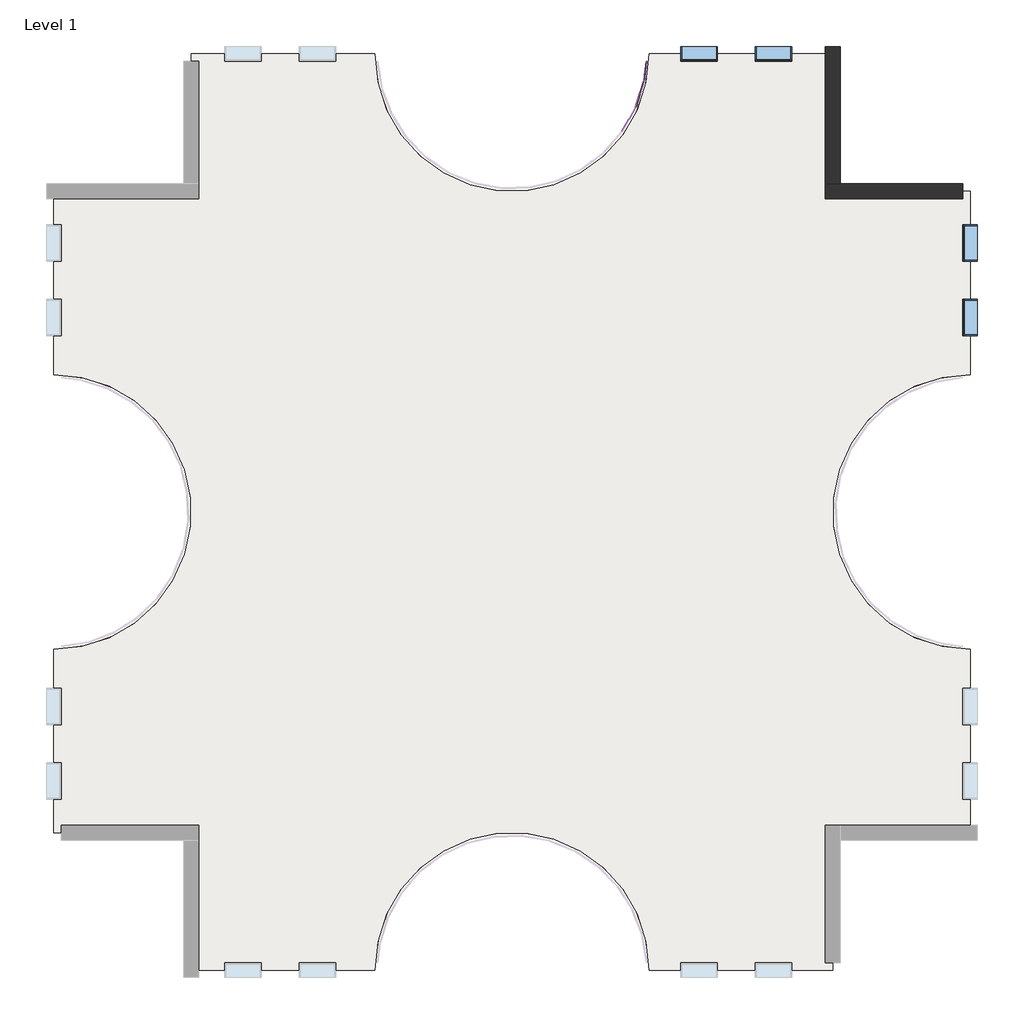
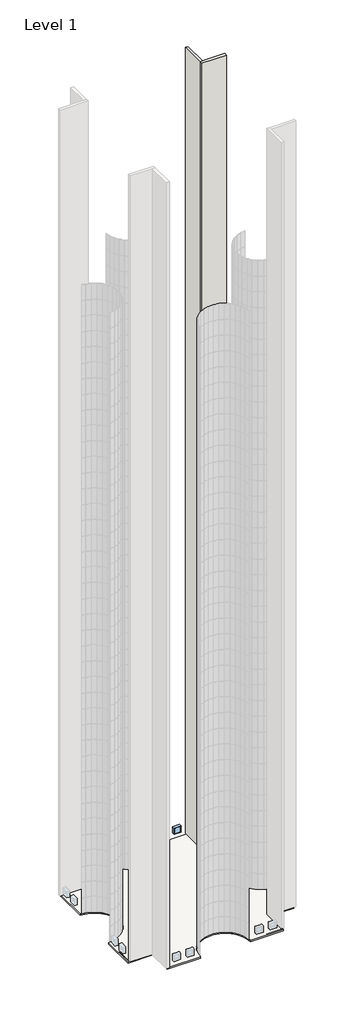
# One storey, part 19 of 19: 108 plates, 4 windows, 2 slabs, 2 walls.
"""IFC4 building model written with IfcOpenShell, lengths in millimetres."""

from ifc_helpers import new_model, si_unit, point, frame, frame_2d, origin, place, context, project, spatial, polyline, circle_curve, trimmed, segment, composite_curve, outline, extrude, faceted_brep, transform, mapped, element, save
from components import system_panel_glazed_d77d1ebf, system_panel_glazed_769dbdec, window_d0035ecf, window_d434eb62

model = new_model("IFC4")

# Units and contexts
model_context = context("Model", 3, world=origin())
ifc_project = project(units=[si_unit("LENGTHUNIT", "METRE", prefix="MILLI")], contexts=[model_context])

# Site, building, storey
site = spatial("IfcSite", under=ifc_project)
building = spatial("IfcBuilding", under=site)
storey = spatial("IfcBuildingStorey", under=building, Name="Level 1", Elevation=0.0)

# Plates
placement = place(None, origin())
system_panel_glazed_shape = system_panel_glazed_d77d1ebf(model_context)
element("IfcPlate", 1, ObjectType="System Panel : Glazed", at=placement, inside=storey, context=model_context, shape_type="MappedRepresentation", body=[
    mapped(system_panel_glazed_shape, transform((7737.9054503, 7722.5420694, 0.0), x_axis=(0.30039246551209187, 0.953815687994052, 0.0), y_axis=(-0.953815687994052, 0.30039246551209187, 0.0), z_axis=(0.0, 0.0, 1.0))),
])
element("IfcPlate", 2, ObjectType="System Panel : Glazed", at=placement, inside=storey, context=model_context, shape_type="MappedRepresentation", body=[
    mapped(system_panel_glazed_shape, transform((7737.9054503, 7722.5420694, 3048.0), x_axis=(0.30039246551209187, 0.953815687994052, 0.0), y_axis=(-0.953815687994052, 0.30039246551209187, 0.0), z_axis=(0.0, 0.0, 1.0))),
])
element("IfcPlate", 3, ObjectType="System Panel : Glazed", at=placement, inside=storey, context=model_context, shape_type="MappedRepresentation", body=[
    mapped(system_panel_glazed_shape, transform((7737.9054503, 7722.5420694, 6096.0), x_axis=(0.30039246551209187, 0.953815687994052, 0.0), y_axis=(-0.953815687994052, 0.30039246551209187, 0.0), z_axis=(0.0, 0.0, 1.0))),
])
element("IfcPlate", 4, ObjectType="System Panel : Glazed", at=placement, inside=storey, context=model_context, shape_type="MappedRepresentation", body=[
    mapped(system_panel_glazed_shape, transform((7737.9054503, 7722.5420694, 9144.0), x_axis=(0.30039246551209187, 0.953815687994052, 0.0), y_axis=(-0.953815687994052, 0.30039246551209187, 0.0), z_axis=(0.0, 0.0, 1.0))),
])
element("IfcPlate", 5, ObjectType="System Panel : Glazed", at=placement, inside=storey, context=model_context, shape_type="MappedRepresentation", body=[
    mapped(system_panel_glazed_shape, transform((7737.9054503, 7722.5420694, 12192.0), x_axis=(0.30039246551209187, 0.953815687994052, 0.0), y_axis=(-0.953815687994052, 0.30039246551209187, 0.0), z_axis=(0.0, 0.0, 1.0))),
])
element("IfcPlate", 6, ObjectType="System Panel : Glazed", at=placement, inside=storey, context=model_context, shape_type="MappedRepresentation", body=[
    mapped(system_panel_glazed_shape, transform((7737.9054503, 7722.5420694, 15240.0), x_axis=(0.30039246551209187, 0.953815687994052, 0.0), y_axis=(-0.953815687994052, 0.30039246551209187, 0.0), z_axis=(0.0, 0.0, 1.0))),
])
element("IfcPlate", 7, ObjectType="System Panel : Glazed", at=placement, inside=storey, context=model_context, shape_type="MappedRepresentation", body=[
    mapped(system_panel_glazed_shape, transform((7737.9054503, 7722.5420694, 18288.0), x_axis=(0.3003924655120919, 0.953815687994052, 0.0), y_axis=(-0.953815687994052, 0.3003924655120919, 0.0), z_axis=(0.0, 0.0, 1.0))),
])
element("IfcPlate", 8, ObjectType="System Panel : Glazed", at=placement, inside=storey, context=model_context, shape_type="MappedRepresentation", body=[
    mapped(system_panel_glazed_shape, transform((7737.9054503, 7722.5420694, 21336.0), x_axis=(0.30039246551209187, 0.953815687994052, 0.0), y_axis=(-0.953815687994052, 0.30039246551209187, 0.0), z_axis=(0.0, 0.0, 1.0))),
])
element("IfcPlate", 9, ObjectType="System Panel : Glazed", at=placement, inside=storey, context=model_context, shape_type="MappedRepresentation", body=[
    mapped(system_panel_glazed_shape, transform((7737.9054503, 7722.5420694, 24384.0), x_axis=(0.30039246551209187, 0.953815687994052, 0.0), y_axis=(-0.953815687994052, 0.30039246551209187, 0.0), z_axis=(0.0, 0.0, 1.0))),
])
element("IfcPlate", 10, ObjectType="System Panel : Glazed", at=placement, inside=storey, context=model_context, shape_type="MappedRepresentation", body=[
    mapped(system_panel_glazed_shape, transform((7737.9054503, 7722.5420694, 27432.0), x_axis=(0.30039246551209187, 0.953815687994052, 0.0), y_axis=(-0.953815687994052, 0.30039246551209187, 0.0), z_axis=(0.0, 0.0, 1.0))),
])
element("IfcPlate", 11, ObjectType="System Panel : Glazed", at=placement, inside=storey, context=model_context, shape_type="MappedRepresentation", body=[
    mapped(system_panel_glazed_shape, transform((7737.9054503, 7722.5420694, 30480.0), x_axis=(0.30039246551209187, 0.953815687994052, 0.0), y_axis=(-0.953815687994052, 0.30039246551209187, 0.0), z_axis=(0.0, 0.0, 1.0))),
])
element("IfcPlate", 12, ObjectType="System Panel : Glazed", at=placement, inside=storey, context=model_context, shape_type="MappedRepresentation", body=[
    mapped(system_panel_glazed_shape, transform((7737.9054503, 7722.5420694, 33528.0), x_axis=(0.30039246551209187, 0.953815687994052, 0.0), y_axis=(-0.953815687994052, 0.30039246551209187, 0.0), z_axis=(0.0, 0.0, 1.0))),
])
element("IfcPlate", 13, ObjectType="System Panel : Glazed", at=placement, inside=storey, context=model_context, shape_type="MappedRepresentation", body=[
    mapped(system_panel_glazed_shape, transform((7376.9584203, 6887.6700201, 36576.0), x_axis=(0.4890804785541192, 0.8722386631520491, 0.0), y_axis=(-0.8722386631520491, 0.4890804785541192, 0.0), z_axis=(0.0, 0.0, 1.0))),
])
element("IfcPlate", 14, ObjectType="System Panel : Glazed", at=placement, inside=storey, context=model_context, shape_type="MappedRepresentation", body=[
    mapped(system_panel_glazed_shape, transform((7737.9054503, 7722.5420694, 36576.0), x_axis=(0.30039246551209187, 0.953815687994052, 0.0), y_axis=(-0.953815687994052, 0.30039246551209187, 0.0), z_axis=(0.0, 0.0, 1.0))),
])
element("IfcPlate", 15, ObjectType="System Panel : Glazed", at=placement, inside=storey, context=model_context, shape_type="MappedRepresentation", body=[
    mapped(system_panel_glazed_shape, transform((7376.9584203, 6887.6700201, 39624.0), x_axis=(0.4890804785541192, 0.8722386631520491, 0.0), y_axis=(-0.8722386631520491, 0.4890804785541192, 0.0), z_axis=(0.0, 0.0, 1.0))),
])
element("IfcPlate", 16, ObjectType="System Panel : Glazed", at=placement, inside=storey, context=model_context, shape_type="MappedRepresentation", body=[
    mapped(system_panel_glazed_shape, transform((7737.9054503, 7722.5420694, 39624.0), x_axis=(0.30039246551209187, 0.953815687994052, 0.0), y_axis=(-0.953815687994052, 0.30039246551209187, 0.0), z_axis=(0.0, 0.0, 1.0))),
])
element("IfcPlate", 17, ObjectType="System Panel : Glazed", at=placement, inside=storey, context=model_context, shape_type="MappedRepresentation", body=[
    mapped(system_panel_glazed_shape, transform((7376.9584203, 6887.6700201, 42672.0), x_axis=(0.4890804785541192, 0.8722386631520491, 0.0), y_axis=(-0.8722386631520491, 0.4890804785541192, 0.0), z_axis=(0.0, 0.0, 1.0))),
])
element("IfcPlate", 18, ObjectType="System Panel : Glazed", at=placement, inside=storey, context=model_context, shape_type="MappedRepresentation", body=[
    mapped(system_panel_glazed_shape, transform((7737.9054503, 7722.5420694, 42672.0), x_axis=(0.30039246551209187, 0.953815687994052, 0.0), y_axis=(-0.953815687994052, 0.30039246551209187, 0.0), z_axis=(0.0, 0.0, 1.0))),
])
element("IfcPlate", 19, ObjectType="System Panel : Glazed", at=placement, inside=storey, context=model_context, shape_type="MappedRepresentation", body=[
    mapped(system_panel_glazed_shape, transform((7376.9584203, 6887.6700201, 45720.0), x_axis=(0.4890804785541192, 0.8722386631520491, 0.0), y_axis=(-0.8722386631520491, 0.4890804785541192, 0.0), z_axis=(0.0, 0.0, 1.0))),
])
element("IfcPlate", 20, ObjectType="System Panel : Glazed", at=placement, inside=storey, context=model_context, shape_type="MappedRepresentation", body=[
    mapped(system_panel_glazed_shape, transform((7737.9054503, 7722.5420694, 45720.0), x_axis=(0.30039246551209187, 0.953815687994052, 0.0), y_axis=(-0.953815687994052, 0.30039246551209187, 0.0), z_axis=(0.0, 0.0, 1.0))),
])
element("IfcPlate", 21, ObjectType="System Panel : Glazed", at=placement, inside=storey, context=model_context, shape_type="MappedRepresentation", body=[
    mapped(system_panel_glazed_shape, transform((7376.9584203, 6887.6700201, 48768.0), x_axis=(0.4890804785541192, 0.8722386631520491, 0.0), y_axis=(-0.8722386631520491, 0.4890804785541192, 0.0), z_axis=(0.0, 0.0, 1.0))),
])
element("IfcPlate", 22, ObjectType="System Panel : Glazed", at=placement, inside=storey, context=model_context, shape_type="MappedRepresentation", body=[
    mapped(system_panel_glazed_shape, transform((7737.9054503, 7722.5420694, 48768.0), x_axis=(0.30039246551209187, 0.953815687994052, 0.0), y_axis=(-0.953815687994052, 0.30039246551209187, 0.0), z_axis=(0.0, 0.0, 1.0))),
])
element("IfcPlate", 23, ObjectType="System Panel : Glazed", at=placement, inside=storey, context=model_context, shape_type="MappedRepresentation", body=[
    mapped(system_panel_glazed_shape, transform((7376.9584203, 6887.6700201, 51816.0), x_axis=(0.4890804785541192, 0.8722386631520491, 0.0), y_axis=(-0.8722386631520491, 0.4890804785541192, 0.0), z_axis=(0.0, 0.0, 1.0))),
])
element("IfcPlate", 24, ObjectType="System Panel : Glazed", at=placement, inside=storey, context=model_context, shape_type="MappedRepresentation", body=[
    mapped(system_panel_glazed_shape, transform((7737.9054503, 7722.5420694, 51816.0), x_axis=(0.30039246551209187, 0.953815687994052, 0.0), y_axis=(-0.953815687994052, 0.30039246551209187, 0.0), z_axis=(0.0, 0.0, 1.0))),
])
element("IfcPlate", 25, ObjectType="System Panel : Glazed", at=placement, inside=storey, context=model_context, shape_type="MappedRepresentation", body=[
    mapped(system_panel_glazed_shape, transform((7376.9584203, 6887.6700201, 54864.0), x_axis=(0.4890804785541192, 0.8722386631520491, 0.0), y_axis=(-0.8722386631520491, 0.4890804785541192, 0.0), z_axis=(0.0, 0.0, 1.0))),
])
element("IfcPlate", 26, ObjectType="System Panel : Glazed", at=placement, inside=storey, context=model_context, shape_type="MappedRepresentation", body=[
    mapped(system_panel_glazed_shape, transform((7737.9054503, 7722.5420694, 54864.0), x_axis=(0.30039246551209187, 0.953815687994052, 0.0), y_axis=(-0.953815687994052, 0.30039246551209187, 0.0), z_axis=(0.0, 0.0, 1.0))),
])
element("IfcPlate", 27, ObjectType="System Panel : Glazed", at=placement, inside=storey, context=model_context, shape_type="MappedRepresentation", body=[
    mapped(system_panel_glazed_shape, transform((7376.9584203, 6887.6700201, 57912.0), x_axis=(0.4890804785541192, 0.8722386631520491, 0.0), y_axis=(-0.8722386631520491, 0.4890804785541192, 0.0), z_axis=(0.0, 0.0, 1.0))),
])
element("IfcPlate", 28, ObjectType="System Panel : Glazed", at=placement, inside=storey, context=model_context, shape_type="MappedRepresentation", body=[
    mapped(system_panel_glazed_shape, transform((7737.9054503, 7722.5420694, 57912.0), x_axis=(0.30039246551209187, 0.953815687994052, 0.0), y_axis=(-0.953815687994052, 0.30039246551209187, 0.0), z_axis=(0.0, 0.0, 1.0))),
])
element("IfcPlate", 29, ObjectType="System Panel : Glazed", at=placement, inside=storey, context=model_context, shape_type="MappedRepresentation", body=[
    mapped(system_panel_glazed_shape, transform((7376.9584203, 6887.6700201, 60960.0), x_axis=(0.4890804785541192, 0.8722386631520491, 0.0), y_axis=(-0.8722386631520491, 0.4890804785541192, 0.0), z_axis=(0.0, 0.0, 1.0))),
])
element("IfcPlate", 30, ObjectType="System Panel : Glazed", at=placement, inside=storey, context=model_context, shape_type="MappedRepresentation", body=[
    mapped(system_panel_glazed_shape, transform((7737.9054503, 7722.5420694, 60960.0), x_axis=(0.30039246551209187, 0.953815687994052, 0.0), y_axis=(-0.953815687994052, 0.30039246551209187, 0.0), z_axis=(0.0, 0.0, 1.0))),
])
element("IfcPlate", 31, ObjectType="System Panel : Glazed", at=placement, inside=storey, context=model_context, shape_type="MappedRepresentation", body=[
    mapped(system_panel_glazed_shape, transform((7376.9584203, 6887.6700201, 64008.0), x_axis=(0.4890804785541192, 0.8722386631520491, 0.0), y_axis=(-0.8722386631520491, 0.4890804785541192, 0.0), z_axis=(0.0, 0.0, 1.0))),
])
element("IfcPlate", 32, ObjectType="System Panel : Glazed", at=placement, inside=storey, context=model_context, shape_type="MappedRepresentation", body=[
    mapped(system_panel_glazed_shape, transform((7737.9054503, 7722.5420694, 64008.0), x_axis=(0.30039246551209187, 0.953815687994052, 0.0), y_axis=(-0.953815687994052, 0.30039246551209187, 0.0), z_axis=(0.0, 0.0, 1.0))),
])
element("IfcPlate", 33, ObjectType="System Panel : Glazed", at=placement, inside=storey, context=model_context, shape_type="MappedRepresentation", body=[
    mapped(system_panel_glazed_shape, transform((7376.9584203, 6887.6700201, 67056.0), x_axis=(0.4890804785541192, 0.8722386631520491, 0.0), y_axis=(-0.8722386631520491, 0.4890804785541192, 0.0), z_axis=(0.0, 0.0, 1.0))),
])
element("IfcPlate", 34, ObjectType="System Panel : Glazed", at=placement, inside=storey, context=model_context, shape_type="MappedRepresentation", body=[
    mapped(system_panel_glazed_shape, transform((7737.9054503, 7722.5420694, 67056.0), x_axis=(0.30039246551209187, 0.953815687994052, 0.0), y_axis=(-0.953815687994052, 0.30039246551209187, 0.0), z_axis=(0.0, 0.0, 1.0))),
])
element("IfcPlate", 35, ObjectType="System Panel : Glazed", at=placement, inside=storey, context=model_context, shape_type="MappedRepresentation", body=[
    mapped(system_panel_glazed_shape, transform((7376.9584203, 6887.6700201, 70104.0), x_axis=(0.4890804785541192, 0.8722386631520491, 0.0), y_axis=(-0.8722386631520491, 0.4890804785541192, 0.0), z_axis=(0.0, 0.0, 1.0))),
])
element("IfcPlate", 36, ObjectType="System Panel : Glazed", at=placement, inside=storey, context=model_context, shape_type="MappedRepresentation", body=[
    mapped(system_panel_glazed_shape, transform((7737.9054503, 7722.5420694, 70104.0), x_axis=(0.30039246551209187, 0.953815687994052, 0.0), y_axis=(-0.953815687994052, 0.30039246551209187, 0.0), z_axis=(0.0, 0.0, 1.0))),
])
element("IfcPlate", 37, ObjectType="System Panel : Glazed", at=placement, inside=storey, context=model_context, shape_type="MappedRepresentation", body=[
    mapped(system_panel_glazed_shape, transform((7376.9584203, 6887.6700201, 73152.0), x_axis=(0.4890804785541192, 0.8722386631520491, 0.0), y_axis=(-0.8722386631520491, 0.4890804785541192, 0.0), z_axis=(0.0, 0.0, 1.0))),
])
element("IfcPlate", 38, ObjectType="System Panel : Glazed", at=placement, inside=storey, context=model_context, shape_type="MappedRepresentation", body=[
    mapped(system_panel_glazed_shape, transform((7737.9054503, 7722.5420694, 73152.0), x_axis=(0.30039246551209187, 0.953815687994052, 0.0), y_axis=(-0.953815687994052, 0.30039246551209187, 0.0), z_axis=(0.0, 0.0, 1.0))),
])
element("IfcPlate", 39, ObjectType="System Panel : Glazed", at=placement, inside=storey, context=model_context, shape_type="MappedRepresentation", body=[
    mapped(system_panel_glazed_shape, transform((7376.9584203, 6887.6700201, 76200.0), x_axis=(0.4890804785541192, 0.8722386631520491, 0.0), y_axis=(-0.8722386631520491, 0.4890804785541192, 0.0), z_axis=(0.0, 0.0, 1.0))),
])
element("IfcPlate", 40, ObjectType="System Panel : Glazed", at=placement, inside=storey, context=model_context, shape_type="MappedRepresentation", body=[
    mapped(system_panel_glazed_shape, transform((7737.9054503, 7722.5420694, 76200.0), x_axis=(0.30039246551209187, 0.953815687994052, 0.0), y_axis=(-0.953815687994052, 0.30039246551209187, 0.0), z_axis=(0.0, 0.0, 1.0))),
])
element("IfcPlate", 41, ObjectType="System Panel : Glazed", at=placement, inside=storey, context=model_context, shape_type="MappedRepresentation", body=[
    mapped(system_panel_glazed_shape, transform((7376.9584203, 6887.6700201, 79248.0), x_axis=(0.4890804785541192, 0.8722386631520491, 0.0), y_axis=(-0.8722386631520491, 0.4890804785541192, 0.0), z_axis=(0.0, 0.0, 1.0))),
])
element("IfcPlate", 42, ObjectType="System Panel : Glazed", at=placement, inside=storey, context=model_context, shape_type="MappedRepresentation", body=[
    mapped(system_panel_glazed_shape, transform((7737.9054503, 7722.5420694, 79248.0), x_axis=(0.30039246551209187, 0.953815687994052, 0.0), y_axis=(-0.953815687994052, 0.30039246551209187, 0.0), z_axis=(0.0, 0.0, 1.0))),
])
element("IfcPlate", 43, ObjectType="System Panel : Glazed", at=placement, inside=storey, context=model_context, shape_type="MappedRepresentation", body=[
    mapped(system_panel_glazed_shape, transform((7376.9584203, 6887.6700201, 82296.0), x_axis=(0.4890804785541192, 0.8722386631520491, 0.0), y_axis=(-0.8722386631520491, 0.4890804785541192, 0.0), z_axis=(0.0, 0.0, 1.0))),
])
element("IfcPlate", 44, ObjectType="System Panel : Glazed", at=placement, inside=storey, context=model_context, shape_type="MappedRepresentation", body=[
    mapped(system_panel_glazed_shape, transform((7737.9054503, 7722.5420694, 82296.0), x_axis=(0.30039246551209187, 0.953815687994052, 0.0), y_axis=(-0.953815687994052, 0.30039246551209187, 0.0), z_axis=(0.0, 0.0, 1.0))),
])
element("IfcPlate", 45, ObjectType="System Panel : Glazed", at=placement, inside=storey, context=model_context, shape_type="MappedRepresentation", body=[
    mapped(system_panel_glazed_shape, transform((7376.9584203, 6887.6700201, 85344.0), x_axis=(0.4890804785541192, 0.8722386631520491, 0.0), y_axis=(-0.8722386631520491, 0.4890804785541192, 0.0), z_axis=(0.0, 0.0, 1.0))),
])
element("IfcPlate", 46, ObjectType="System Panel : Glazed", at=placement, inside=storey, context=model_context, shape_type="MappedRepresentation", body=[
    mapped(system_panel_glazed_shape, transform((7737.9054503, 7722.5420694, 85344.0), x_axis=(0.30039246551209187, 0.953815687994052, 0.0), y_axis=(-0.953815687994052, 0.30039246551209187, 0.0), z_axis=(0.0, 0.0, 1.0))),
])
element("IfcPlate", 47, ObjectType="System Panel : Glazed", at=placement, inside=storey, context=model_context, shape_type="MappedRepresentation", body=[
    mapped(system_panel_glazed_shape, transform((7376.9584203, 6887.6700201, 88392.0), x_axis=(0.4890804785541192, 0.8722386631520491, 0.0), y_axis=(-0.8722386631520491, 0.4890804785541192, 0.0), z_axis=(0.0, 0.0, 1.0))),
])
element("IfcPlate", 48, ObjectType="System Panel : Glazed", at=placement, inside=storey, context=model_context, shape_type="MappedRepresentation", body=[
    mapped(system_panel_glazed_shape, transform((7737.9054503, 7722.5420694, 88392.0), x_axis=(0.30039246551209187, 0.953815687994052, 0.0), y_axis=(-0.953815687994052, 0.30039246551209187, 0.0), z_axis=(0.0, 0.0, 1.0))),
])
element("IfcPlate", 49, ObjectType="System Panel : Glazed", at=placement, inside=storey, context=model_context, shape_type="MappedRepresentation", body=[
    mapped(system_panel_glazed_shape, transform((7376.9584203, 6887.6700201, 91440.0), x_axis=(0.4890804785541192, 0.8722386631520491, 0.0), y_axis=(-0.8722386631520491, 0.4890804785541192, 0.0), z_axis=(0.0, 0.0, 1.0))),
])
element("IfcPlate", 50, ObjectType="System Panel : Glazed", at=placement, inside=storey, context=model_context, shape_type="MappedRepresentation", body=[
    mapped(system_panel_glazed_shape, transform((7737.9054503, 7722.5420694, 91440.0), x_axis=(0.30039246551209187, 0.953815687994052, 0.0), y_axis=(-0.953815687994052, 0.30039246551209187, 0.0), z_axis=(0.0, 0.0, 1.0))),
])
element("IfcPlate", 51, ObjectType="System Panel : Glazed", at=placement, inside=storey, context=model_context, shape_type="MappedRepresentation", body=[
    mapped(system_panel_glazed_shape, transform((7376.9584203, 6887.6700201, 94488.0), x_axis=(0.4890804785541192, 0.8722386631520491, 0.0), y_axis=(-0.8722386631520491, 0.4890804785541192, 0.0), z_axis=(0.0, 0.0, 1.0))),
])
element("IfcPlate", 52, ObjectType="System Panel : Glazed", at=placement, inside=storey, context=model_context, shape_type="MappedRepresentation", body=[
    mapped(system_panel_glazed_shape, transform((7737.9054503, 7722.5420694, 94488.0), x_axis=(0.30039246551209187, 0.953815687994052, 0.0), y_axis=(-0.953815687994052, 0.30039246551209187, 0.0), z_axis=(0.0, 0.0, 1.0))),
])
element("IfcPlate", 53, ObjectType="System Panel : Glazed", at=placement, inside=storey, context=model_context, shape_type="MappedRepresentation", body=[
    mapped(system_panel_glazed_shape, transform((7376.9584203, 6887.6700201, 97536.0), x_axis=(0.4890804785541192, 0.8722386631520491, 0.0), y_axis=(-0.8722386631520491, 0.4890804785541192, 0.0), z_axis=(0.0, 0.0, 1.0))),
])
element("IfcPlate", 54, ObjectType="System Panel : Glazed", at=placement, inside=storey, context=model_context, shape_type="MappedRepresentation", body=[
    mapped(system_panel_glazed_shape, transform((7737.9054503, 7722.5420694, 97536.0), x_axis=(0.30039246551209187, 0.953815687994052, 0.0), y_axis=(-0.953815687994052, 0.30039246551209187, 0.0), z_axis=(0.0, 0.0, 1.0))),
])
element("IfcPlate", 55, ObjectType="System Panel : Glazed", at=placement, inside=storey, context=model_context, shape_type="MappedRepresentation", body=[
    mapped(system_panel_glazed_shape, transform((7376.9584203, 6887.6700201, 100584.0), x_axis=(0.4890804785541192, 0.8722386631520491, 0.0), y_axis=(-0.8722386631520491, 0.4890804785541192, 0.0), z_axis=(0.0, 0.0, 1.0))),
])
element("IfcPlate", 56, ObjectType="System Panel : Glazed", at=placement, inside=storey, context=model_context, shape_type="MappedRepresentation", body=[
    mapped(system_panel_glazed_shape, transform((7737.9054503, 7722.5420694, 100584.0), x_axis=(0.30039246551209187, 0.953815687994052, 0.0), y_axis=(-0.953815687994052, 0.30039246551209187, 0.0), z_axis=(0.0, 0.0, 1.0))),
])
element("IfcPlate", 57, ObjectType="System Panel : Glazed", at=placement, inside=storey, context=model_context, shape_type="MappedRepresentation", body=[
    mapped(system_panel_glazed_shape, transform((7376.9584203, 6887.6700201, 103632.0), x_axis=(0.4890804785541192, 0.8722386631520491, 0.0), y_axis=(-0.8722386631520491, 0.4890804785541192, 0.0), z_axis=(0.0, 0.0, 1.0))),
])
element("IfcPlate", 58, ObjectType="System Panel : Glazed", at=placement, inside=storey, context=model_context, shape_type="MappedRepresentation", body=[
    mapped(system_panel_glazed_shape, transform((7737.9054503, 7722.5420694, 103632.0), x_axis=(0.30039246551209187, 0.953815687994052, 0.0), y_axis=(-0.953815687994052, 0.30039246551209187, 0.0), z_axis=(0.0, 0.0, 1.0))),
])
element("IfcPlate", 59, ObjectType="System Panel : Glazed", at=placement, inside=storey, context=model_context, shape_type="MappedRepresentation", body=[
    mapped(system_panel_glazed_shape, transform((7376.9584203, 6887.6700201, 106680.0), x_axis=(0.4890804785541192, 0.8722386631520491, 0.0), y_axis=(-0.8722386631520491, 0.4890804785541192, 0.0), z_axis=(0.0, 0.0, 1.0))),
])
element("IfcPlate", 60, ObjectType="System Panel : Glazed", at=placement, inside=storey, context=model_context, shape_type="MappedRepresentation", body=[
    mapped(system_panel_glazed_shape, transform((7737.9054503, 7722.5420694, 106680.0), x_axis=(0.30039246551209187, 0.953815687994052, 0.0), y_axis=(-0.953815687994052, 0.30039246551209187, 0.0), z_axis=(0.0, 0.0, 1.0))),
])
element("IfcPlate", 61, ObjectType="System Panel : Glazed", at=placement, inside=storey, context=model_context, shape_type="MappedRepresentation", body=[
    mapped(system_panel_glazed_shape, transform((7376.9584203, 6887.6700201, 109728.0), x_axis=(0.4890804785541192, 0.8722386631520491, 0.0), y_axis=(-0.8722386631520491, 0.4890804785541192, 0.0), z_axis=(0.0, 0.0, 1.0))),
])
element("IfcPlate", 62, ObjectType="System Panel : Glazed", at=placement, inside=storey, context=model_context, shape_type="MappedRepresentation", body=[
    mapped(system_panel_glazed_shape, transform((7737.9054503, 7722.5420694, 109728.0), x_axis=(0.30039246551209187, 0.953815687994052, 0.0), y_axis=(-0.953815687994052, 0.30039246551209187, 0.0), z_axis=(0.0, 0.0, 1.0))),
])
element("IfcPlate", 63, ObjectType="System Panel : Glazed", at=placement, inside=storey, context=model_context, shape_type="MappedRepresentation", body=[
    mapped(system_panel_glazed_shape, transform((7376.9584203, 6887.6700201, 112776.0), x_axis=(0.4890804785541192, 0.8722386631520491, 0.0), y_axis=(-0.8722386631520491, 0.4890804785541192, 0.0), z_axis=(0.0, 0.0, 1.0))),
])
element("IfcPlate", 64, ObjectType="System Panel : Glazed", at=placement, inside=storey, context=model_context, shape_type="MappedRepresentation", body=[
    mapped(system_panel_glazed_shape, transform((7737.9054503, 7722.5420694, 112776.0), x_axis=(0.30039246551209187, 0.953815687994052, 0.0), y_axis=(-0.953815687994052, 0.30039246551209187, 0.0), z_axis=(0.0, 0.0, 1.0))),
])
element("IfcPlate", 65, ObjectType="System Panel : Glazed", at=placement, inside=storey, context=model_context, shape_type="MappedRepresentation", body=[
    mapped(system_panel_glazed_shape, transform((7376.9584203, 6887.6700201, 115824.0), x_axis=(0.4890804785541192, 0.8722386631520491, 0.0), y_axis=(-0.8722386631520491, 0.4890804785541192, 0.0), z_axis=(0.0, 0.0, 1.0))),
])
element("IfcPlate", 66, ObjectType="System Panel : Glazed", at=placement, inside=storey, context=model_context, shape_type="MappedRepresentation", body=[
    mapped(system_panel_glazed_shape, transform((7737.9054503, 7722.5420694, 115824.0), x_axis=(0.30039246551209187, 0.953815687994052, 0.0), y_axis=(-0.953815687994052, 0.30039246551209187, 0.0), z_axis=(0.0, 0.0, 1.0))),
])
element("IfcPlate", 67, ObjectType="System Panel : Glazed", at=placement, inside=storey, context=model_context, shape_type="MappedRepresentation", body=[
    mapped(system_panel_glazed_shape, transform((7376.9584203, 6887.6700201, 118872.0), x_axis=(0.4890804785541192, 0.8722386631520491, 0.0), y_axis=(-0.8722386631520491, 0.4890804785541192, 0.0), z_axis=(0.0, 0.0, 1.0))),
])
element("IfcPlate", 68, ObjectType="System Panel : Glazed", at=placement, inside=storey, context=model_context, shape_type="MappedRepresentation", body=[
    mapped(system_panel_glazed_shape, transform((7737.9054503, 7722.5420694, 118872.0), x_axis=(0.30039246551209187, 0.953815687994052, 0.0), y_axis=(-0.953815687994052, 0.30039246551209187, 0.0), z_axis=(0.0, 0.0, 1.0))),
])
system_panel_glazed_2_shape = system_panel_glazed_769dbdec(model_context)
element("IfcPlate", 69, ObjectType="System Panel : Glazed", at=placement, inside=storey, context=model_context, shape_type="MappedRepresentation", body=[
    mapped(system_panel_glazed_2_shape, transform((7916.9897563, 8479.7325283, 0.0), x_axis=(0.12891857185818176, 0.9916551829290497, 0.0), y_axis=(-0.9916551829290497, 0.12891857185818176, 0.0), z_axis=(0.0, 0.0, 1.0))),
])
element("IfcPlate", 70, ObjectType="System Panel : Glazed", at=placement, inside=storey, context=model_context, shape_type="MappedRepresentation", body=[
    mapped(system_panel_glazed_2_shape, transform((7916.9897563, 8479.7325283, 3048.0), x_axis=(0.12891857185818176, 0.9916551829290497, 0.0), y_axis=(-0.9916551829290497, 0.12891857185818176, 0.0), z_axis=(0.0, 0.0, 1.0))),
])
element("IfcPlate", 71, ObjectType="System Panel : Glazed", at=placement, inside=storey, context=model_context, shape_type="MappedRepresentation", body=[
    mapped(system_panel_glazed_2_shape, transform((7916.9897563, 8479.7325283, 6096.0), x_axis=(0.12891857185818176, 0.9916551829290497, 0.0), y_axis=(-0.9916551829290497, 0.12891857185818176, 0.0), z_axis=(0.0, 0.0, 1.0))),
])
element("IfcPlate", 72, ObjectType="System Panel : Glazed", at=placement, inside=storey, context=model_context, shape_type="MappedRepresentation", body=[
    mapped(system_panel_glazed_2_shape, transform((7916.9897563, 8479.7325283, 9144.0), x_axis=(0.12891857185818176, 0.9916551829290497, 0.0), y_axis=(-0.9916551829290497, 0.12891857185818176, 0.0), z_axis=(0.0, 0.0, 1.0))),
])
element("IfcPlate", 73, ObjectType="System Panel : Glazed", at=placement, inside=storey, context=model_context, shape_type="MappedRepresentation", body=[
    mapped(system_panel_glazed_2_shape, transform((7916.9897563, 8479.7325283, 12192.0), x_axis=(0.12891857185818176, 0.9916551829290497, 0.0), y_axis=(-0.9916551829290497, 0.12891857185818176, 0.0), z_axis=(0.0, 0.0, 1.0))),
])
element("IfcPlate", 74, ObjectType="System Panel : Glazed", at=placement, inside=storey, context=model_context, shape_type="MappedRepresentation", body=[
    mapped(system_panel_glazed_2_shape, transform((7916.9897563, 8479.7325283, 15240.0), x_axis=(0.12891857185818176, 0.9916551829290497, 0.0), y_axis=(-0.9916551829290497, 0.12891857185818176, 0.0), z_axis=(0.0, 0.0, 1.0))),
])
element("IfcPlate", 75, ObjectType="System Panel : Glazed", at=placement, inside=storey, context=model_context, shape_type="MappedRepresentation", body=[
    mapped(system_panel_glazed_2_shape, transform((7916.9897563, 8479.7325283, 18288.0), x_axis=(0.12891857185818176, 0.9916551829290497, 0.0), y_axis=(-0.9916551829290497, 0.12891857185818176, 0.0), z_axis=(0.0, 0.0, 1.0))),
])
element("IfcPlate", 76, ObjectType="System Panel : Glazed", at=placement, inside=storey, context=model_context, shape_type="MappedRepresentation", body=[
    mapped(system_panel_glazed_2_shape, transform((7916.9897563, 8479.7325283, 21336.0), x_axis=(0.12891857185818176, 0.9916551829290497, 0.0), y_axis=(-0.9916551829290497, 0.12891857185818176, 0.0), z_axis=(0.0, 0.0, 1.0))),
])
element("IfcPlate", 77, ObjectType="System Panel : Glazed", at=placement, inside=storey, context=model_context, shape_type="MappedRepresentation", body=[
    mapped(system_panel_glazed_2_shape, transform((7916.9897563, 8479.7325283, 24384.0), x_axis=(0.12891857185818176, 0.9916551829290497, 0.0), y_axis=(-0.9916551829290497, 0.12891857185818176, 0.0), z_axis=(0.0, 0.0, 1.0))),
])
element("IfcPlate", 78, ObjectType="System Panel : Glazed", at=placement, inside=storey, context=model_context, shape_type="MappedRepresentation", body=[
    mapped(system_panel_glazed_2_shape, transform((7916.9897563, 8479.7325283, 27432.0), x_axis=(0.12891857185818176, 0.9916551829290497, 0.0), y_axis=(-0.9916551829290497, 0.12891857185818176, 0.0), z_axis=(0.0, 0.0, 1.0))),
])
element("IfcPlate", 79, ObjectType="System Panel : Glazed", at=placement, inside=storey, context=model_context, shape_type="MappedRepresentation", body=[
    mapped(system_panel_glazed_2_shape, transform((7916.9897563, 8479.7325283, 30480.0), x_axis=(0.12891857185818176, 0.9916551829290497, 0.0), y_axis=(-0.9916551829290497, 0.12891857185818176, 0.0), z_axis=(0.0, 0.0, 1.0))),
])
element("IfcPlate", 80, ObjectType="System Panel : Glazed", at=placement, inside=storey, context=model_context, shape_type="MappedRepresentation", body=[
    mapped(system_panel_glazed_2_shape, transform((7916.9897563, 8479.7325283, 33528.0), x_axis=(0.12891857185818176, 0.9916551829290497, 0.0), y_axis=(-0.9916551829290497, 0.12891857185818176, 0.0), z_axis=(0.0, 0.0, 1.0))),
])
element("IfcPlate", 81, ObjectType="System Panel : Glazed", at=placement, inside=storey, context=model_context, shape_type="MappedRepresentation", body=[
    mapped(system_panel_glazed_2_shape, transform((7916.9897563, 8479.7325283, 36576.0), x_axis=(0.12891857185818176, 0.9916551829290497, 0.0), y_axis=(-0.9916551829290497, 0.12891857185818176, 0.0), z_axis=(0.0, 0.0, 1.0))),
])
element("IfcPlate", 82, ObjectType="System Panel : Glazed", at=placement, inside=storey, context=model_context, shape_type="MappedRepresentation", body=[
    mapped(system_panel_glazed_2_shape, transform((7916.9897563, 8479.7325283, 39624.0), x_axis=(0.12891857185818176, 0.9916551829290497, 0.0), y_axis=(-0.9916551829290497, 0.12891857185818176, 0.0), z_axis=(0.0, 0.0, 1.0))),
])
element("IfcPlate", 83, ObjectType="System Panel : Glazed", at=placement, inside=storey, context=model_context, shape_type="MappedRepresentation", body=[
    mapped(system_panel_glazed_2_shape, transform((7916.9897563, 8479.7325283, 42672.0), x_axis=(0.12891857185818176, 0.9916551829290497, 0.0), y_axis=(-0.9916551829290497, 0.12891857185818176, 0.0), z_axis=(0.0, 0.0, 1.0))),
])
element("IfcPlate", 84, ObjectType="System Panel : Glazed", at=placement, inside=storey, context=model_context, shape_type="MappedRepresentation", body=[
    mapped(system_panel_glazed_2_shape, transform((7916.9897563, 8479.7325283, 45720.0), x_axis=(0.12891857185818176, 0.9916551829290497, 0.0), y_axis=(-0.9916551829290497, 0.12891857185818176, 0.0), z_axis=(0.0, 0.0, 1.0))),
])
element("IfcPlate", 85, ObjectType="System Panel : Glazed", at=placement, inside=storey, context=model_context, shape_type="MappedRepresentation", body=[
    mapped(system_panel_glazed_2_shape, transform((7916.9897563, 8479.7325283, 48768.0), x_axis=(0.12891857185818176, 0.9916551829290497, 0.0), y_axis=(-0.9916551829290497, 0.12891857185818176, 0.0), z_axis=(0.0, 0.0, 1.0))),
])
element("IfcPlate", 86, ObjectType="System Panel : Glazed", at=placement, inside=storey, context=model_context, shape_type="MappedRepresentation", body=[
    mapped(system_panel_glazed_2_shape, transform((7916.9897563, 8479.7325283, 51816.0), x_axis=(0.12891857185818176, 0.9916551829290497, 0.0), y_axis=(-0.9916551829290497, 0.12891857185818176, 0.0), z_axis=(0.0, 0.0, 1.0))),
])
element("IfcPlate", 87, ObjectType="System Panel : Glazed", at=placement, inside=storey, context=model_context, shape_type="MappedRepresentation", body=[
    mapped(system_panel_glazed_2_shape, transform((7916.9897563, 8479.7325283, 54864.0), x_axis=(0.12891857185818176, 0.9916551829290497, 0.0), y_axis=(-0.9916551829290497, 0.12891857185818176, 0.0), z_axis=(0.0, 0.0, 1.0))),
])
element("IfcPlate", 88, ObjectType="System Panel : Glazed", at=placement, inside=storey, context=model_context, shape_type="MappedRepresentation", body=[
    mapped(system_panel_glazed_2_shape, transform((7916.9897563, 8479.7325283, 57912.0), x_axis=(0.12891857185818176, 0.9916551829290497, 0.0), y_axis=(-0.9916551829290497, 0.12891857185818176, 0.0), z_axis=(0.0, 0.0, 1.0))),
])
element("IfcPlate", 89, ObjectType="System Panel : Glazed", at=placement, inside=storey, context=model_context, shape_type="MappedRepresentation", body=[
    mapped(system_panel_glazed_2_shape, transform((7916.9897563, 8479.7325283, 60960.0), x_axis=(0.12891857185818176, 0.9916551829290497, 0.0), y_axis=(-0.9916551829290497, 0.12891857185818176, 0.0), z_axis=(0.0, 0.0, 1.0))),
])
element("IfcPlate", 90, ObjectType="System Panel : Glazed", at=placement, inside=storey, context=model_context, shape_type="MappedRepresentation", body=[
    mapped(system_panel_glazed_2_shape, transform((7916.9897563, 8479.7325283, 64008.0), x_axis=(0.12891857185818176, 0.9916551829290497, 0.0), y_axis=(-0.9916551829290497, 0.12891857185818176, 0.0), z_axis=(0.0, 0.0, 1.0))),
])
element("IfcPlate", 91, ObjectType="System Panel : Glazed", at=placement, inside=storey, context=model_context, shape_type="MappedRepresentation", body=[
    mapped(system_panel_glazed_2_shape, transform((7916.9897563, 8479.7325283, 67056.0), x_axis=(0.12891857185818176, 0.9916551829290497, 0.0), y_axis=(-0.9916551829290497, 0.12891857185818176, 0.0), z_axis=(0.0, 0.0, 1.0))),
])
element("IfcPlate", 92, ObjectType="System Panel : Glazed", at=placement, inside=storey, context=model_context, shape_type="MappedRepresentation", body=[
    mapped(system_panel_glazed_2_shape, transform((7916.9897563, 8479.7325283, 70104.0), x_axis=(0.12891857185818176, 0.9916551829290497, 0.0), y_axis=(-0.9916551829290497, 0.12891857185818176, 0.0), z_axis=(0.0, 0.0, 1.0))),
])
element("IfcPlate", 93, ObjectType="System Panel : Glazed", at=placement, inside=storey, context=model_context, shape_type="MappedRepresentation", body=[
    mapped(system_panel_glazed_2_shape, transform((7916.9897563, 8479.7325283, 73152.0), x_axis=(0.12891857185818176, 0.9916551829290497, 0.0), y_axis=(-0.9916551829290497, 0.12891857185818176, 0.0), z_axis=(0.0, 0.0, 1.0))),
])
element("IfcPlate", 94, ObjectType="System Panel : Glazed", at=placement, inside=storey, context=model_context, shape_type="MappedRepresentation", body=[
    mapped(system_panel_glazed_2_shape, transform((7916.9897563, 8479.7325283, 76200.0), x_axis=(0.12891857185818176, 0.9916551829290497, 0.0), y_axis=(-0.9916551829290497, 0.12891857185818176, 0.0), z_axis=(0.0, 0.0, 1.0))),
])
element("IfcPlate", 95, ObjectType="System Panel : Glazed", at=placement, inside=storey, context=model_context, shape_type="MappedRepresentation", body=[
    mapped(system_panel_glazed_2_shape, transform((7916.9897563, 8479.7325283, 79248.0), x_axis=(0.12891857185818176, 0.9916551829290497, 0.0), y_axis=(-0.9916551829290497, 0.12891857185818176, 0.0), z_axis=(0.0, 0.0, 1.0))),
])
element("IfcPlate", 96, ObjectType="System Panel : Glazed", at=placement, inside=storey, context=model_context, shape_type="MappedRepresentation", body=[
    mapped(system_panel_glazed_2_shape, transform((7916.9897563, 8479.7325283, 82296.0), x_axis=(0.12891857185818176, 0.9916551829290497, 0.0), y_axis=(-0.9916551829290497, 0.12891857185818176, 0.0), z_axis=(0.0, 0.0, 1.0))),
])
element("IfcPlate", 97, ObjectType="System Panel : Glazed", at=placement, inside=storey, context=model_context, shape_type="MappedRepresentation", body=[
    mapped(system_panel_glazed_2_shape, transform((7916.9897563, 8479.7325283, 85344.0), x_axis=(0.12891857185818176, 0.9916551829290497, 0.0), y_axis=(-0.9916551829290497, 0.12891857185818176, 0.0), z_axis=(0.0, 0.0, 1.0))),
])
element("IfcPlate", 98, ObjectType="System Panel : Glazed", at=placement, inside=storey, context=model_context, shape_type="MappedRepresentation", body=[
    mapped(system_panel_glazed_2_shape, transform((7916.9897563, 8479.7325283, 88392.0), x_axis=(0.12891857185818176, 0.9916551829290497, 0.0), y_axis=(-0.9916551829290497, 0.12891857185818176, 0.0), z_axis=(0.0, 0.0, 1.0))),
])
element("IfcPlate", 99, ObjectType="System Panel : Glazed", at=placement, inside=storey, context=model_context, shape_type="MappedRepresentation", body=[
    mapped(system_panel_glazed_2_shape, transform((7916.9897563, 8479.7325283, 91440.0), x_axis=(0.12891857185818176, 0.9916551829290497, 0.0), y_axis=(-0.9916551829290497, 0.12891857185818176, 0.0), z_axis=(0.0, 0.0, 1.0))),
])
element("IfcPlate", 100, ObjectType="System Panel : Glazed", at=placement, inside=storey, context=model_context, shape_type="MappedRepresentation", body=[
    mapped(system_panel_glazed_2_shape, transform((7916.9897563, 8479.7325283, 94488.0), x_axis=(0.12891857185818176, 0.9916551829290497, 0.0), y_axis=(-0.9916551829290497, 0.12891857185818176, 0.0), z_axis=(0.0, 0.0, 1.0))),
])
element("IfcPlate", 101, ObjectType="System Panel : Glazed", at=placement, inside=storey, context=model_context, shape_type="MappedRepresentation", body=[
    mapped(system_panel_glazed_2_shape, transform((7916.9897563, 8479.7325283, 97536.0), x_axis=(0.12891857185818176, 0.9916551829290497, 0.0), y_axis=(-0.9916551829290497, 0.12891857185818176, 0.0), z_axis=(0.0, 0.0, 1.0))),
])
element("IfcPlate", 102, ObjectType="System Panel : Glazed", at=placement, inside=storey, context=model_context, shape_type="MappedRepresentation", body=[
    mapped(system_panel_glazed_2_shape, transform((7916.9897563, 8479.7325283, 100584.0), x_axis=(0.12891857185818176, 0.9916551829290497, 0.0), y_axis=(-0.9916551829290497, 0.12891857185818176, 0.0), z_axis=(0.0, 0.0, 1.0))),
])
element("IfcPlate", 103, ObjectType="System Panel : Glazed", at=placement, inside=storey, context=model_context, shape_type="MappedRepresentation", body=[
    mapped(system_panel_glazed_2_shape, transform((7916.9897563, 8479.7325283, 103632.0), x_axis=(0.12891857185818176, 0.9916551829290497, 0.0), y_axis=(-0.9916551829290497, 0.12891857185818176, 0.0), z_axis=(0.0, 0.0, 1.0))),
])
element("IfcPlate", 104, ObjectType="System Panel : Glazed", at=placement, inside=storey, context=model_context, shape_type="MappedRepresentation", body=[
    mapped(system_panel_glazed_2_shape, transform((7916.9897563, 8479.7325283, 106680.0), x_axis=(0.12891857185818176, 0.9916551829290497, 0.0), y_axis=(-0.9916551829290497, 0.12891857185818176, 0.0), z_axis=(0.0, 0.0, 1.0))),
])
element("IfcPlate", 105, ObjectType="System Panel : Glazed", at=placement, inside=storey, context=model_context, shape_type="MappedRepresentation", body=[
    mapped(system_panel_glazed_2_shape, transform((7916.9897563, 8479.7325283, 109728.0), x_axis=(0.12891857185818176, 0.9916551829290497, 0.0), y_axis=(-0.9916551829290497, 0.12891857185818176, 0.0), z_axis=(0.0, 0.0, 1.0))),
])
element("IfcPlate", 106, ObjectType="System Panel : Glazed", at=placement, inside=storey, context=model_context, shape_type="MappedRepresentation", body=[
    mapped(system_panel_glazed_2_shape, transform((7916.9897563, 8479.7325283, 112776.0), x_axis=(0.12891857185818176, 0.9916551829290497, 0.0), y_axis=(-0.9916551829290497, 0.12891857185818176, 0.0), z_axis=(0.0, 0.0, 1.0))),
])
element("IfcPlate", 107, ObjectType="System Panel : Glazed", at=placement, inside=storey, context=model_context, shape_type="MappedRepresentation", body=[
    mapped(system_panel_glazed_2_shape, transform((7916.9897563, 8479.7325283, 115824.0), x_axis=(0.12891857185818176, 0.9916551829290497, 0.0), y_axis=(-0.9916551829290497, 0.12891857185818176, 0.0), z_axis=(0.0, 0.0, 1.0))),
])
element("IfcPlate", 108, ObjectType="System Panel : Glazed", at=placement, inside=storey, context=model_context, shape_type="MappedRepresentation", body=[
    mapped(system_panel_glazed_2_shape, transform((7916.9897563, 8479.7325283, 118872.0), x_axis=(0.12891857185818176, 0.9916551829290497, 0.0), y_axis=(-0.9916551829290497, 0.12891857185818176, 0.0), z_axis=(0.0, 0.0, 1.0))),
])

# Slabs
element("IfcSlab", 109, ObjectType="Generic - 12\"", at=placement, inside=storey, context=model_context, shape_type="SweptSolid", body=[
    extrude(outline(composite_curve([segment(polyline([(-7150.3629456, 4479.6634547), (-7150.3629456, 9051.6634547), (-1054.3629456, 9051.6634547)]), True, "CONTINUOUS"), segment(trimmed(circle_curve(frame_2d((3517.6370544, 9051.6634547)), 4572.0), [point((-1054.3629456, 9051.6634547))], [point((8089.6370544, 9051.6634547))], True, "CARTESIAN"), True, "CONTINUOUS"), segment(polyline([(8089.6370544, 9051.6634547), (14185.6370544, 9051.6634547), (14185.6370544, 4479.6634547), (18757.6370544, 4479.6634547), (18757.6370544, -1616.3365453)]), True, "CONTINUOUS"), segment(trimmed(circle_curve(frame_2d((18757.6370544, -6188.3365453)), 4572.0), [point((18757.6370544, -1616.3365453))], [point((18757.6370544, -10760.3365453))], True, "CARTESIAN"), True, "CONTINUOUS"), segment(polyline([(18757.6370544, -10760.3365453), (18757.6370544, -16856.3365453), (14185.6370544, -16856.3365453), (14185.6370544, -21428.3365453), (8089.6370544, -21428.3365453)]), True, "CONTINUOUS"), segment(trimmed(circle_curve(frame_2d((3517.6370544, -21428.3365453)), 4572.0), [point((8089.6370544, -21428.3365453))], [point((-1054.3629456, -21428.3365453))], True, "CARTESIAN"), True, "CONTINUOUS"), segment(polyline([(-1054.3629456, -21428.3365453), (-7150.3629456, -21428.3365453), (-7150.3629456, -16856.3365453), (-11722.3629456, -16856.3365453), (-11722.3629456, -10760.3365453)]), True, "CONTINUOUS"), segment(trimmed(circle_curve(frame_2d((-11722.3629456, -6188.3365453)), 4572.0), [point((-11722.3629456, -10760.3365453))], [point((-11722.3629456, -1616.3365453))], True, "CARTESIAN"), True, "CONTINUOUS"), segment(polyline([(-11722.3629456, -1616.3365453), (-11722.3629456, 4479.6634547), (-7150.3629456, 4479.6634547)]), True, "CONTINUOUS")], self_intersect=False)), frame((0.0, 0.0, -304.8), z_axis=(0.0, 0.0, 1.0), x_axis=(1.0, 0.0, 0.0)), (0.0, 0.0, 1.0), 304.8),
])
element("IfcSlab", 110, ObjectType="LW Concrete on Metal Deck", at=placement, inside=storey, context=model_context, shape_type="SweptSolid", body=[
    extrude(outline(composite_curve([segment(polyline([(-6956.6879456, -16662.6615453), (-11528.6879456, -16662.6615453), (-11528.6879456, -10756.3206456)]), True, "CONTINUOUS"), segment(trimmed(circle_curve(frame_2d((-11719.1879456, -6188.2911196)), 4572.0), [point((-11528.6879456, -10756.3206456))], [point((-11528.6879456, -1620.2615937))], True, "CARTESIAN"), True, "CONTINUOUS"), segment(polyline([(-11528.6879456, -1620.2615937), (-11528.6879456, 4285.9884547), (-6956.6879456, 4285.9884547), (-6956.6879456, 8857.9884547), (-1050.4378972, 8857.9884547)]), True, "CONTINUOUS"), segment(trimmed(circle_curve(frame_2d((3517.5916287, 9048.4884547)), 4572.0), [point((-1050.4378972, 8857.9884547))], [point((8085.6211547, 8857.9884547))], True, "CARTESIAN"), True, "CONTINUOUS"), segment(polyline([(8085.6211547, 8857.9884547), (13991.9620544, 8857.9884547), (13991.9620544, 4285.9884547), (18563.9620544, 4285.9884547), (18563.9620544, -1620.352445)]), True, "CONTINUOUS"), segment(trimmed(circle_curve(frame_2d((18754.4620544, -6188.3819709)), 4572.0), [point((18563.9620544, -1620.352445))], [point((18563.9620544, -10756.4114969))], True, "CARTESIAN"), True, "CONTINUOUS"), segment(polyline([(18563.9620544, -10756.4114969), (18563.9620544, -16662.6615453), (13991.9620544, -16662.6615453), (13991.9620544, -21234.6615453), (8085.712006, -21234.6615453)]), True, "CONTINUOUS"), segment(trimmed(circle_curve(frame_2d((3517.68248, -21425.1615453)), 4572.0), [point((8085.712006, -21234.6615453))], [point((-1050.3470459, -21234.6615453))], True, "CARTESIAN"), True, "CONTINUOUS"), segment(polyline([(-1050.3470459, -21234.6615453), (-6956.6879456, -21234.6615453), (-6956.6879456, -16662.6615453)]), True, "CONTINUOUS")], self_intersect=False)), frame((0.0, 0.0, -104.775), z_axis=(0.0, 0.0, 1.0), x_axis=(1.0, 0.0, 0.0)), (0.0, 0.0, 1.0), 104.775),
])

# Walls
element("IfcWall", 111, ObjectType="Exterior - Brick on CMU", at=placement, inside=storey, context=model_context, shape_type="Brep", body=[
    faceted_brep([(18506.8120544, 4724.1384547, 0.0), (14430.1120544, 4724.1384547, 0.0), (13934.8120544, 4724.1384547, 0.0), (13934.8120544, 4724.1384547, 152400.0), (14430.1120544, 4724.1384547, 152400.0), (18506.8120544, 4724.1384547, 152400.0), (18506.8120544, 4228.8384547, 0.0), (18506.8120544, 4228.8384547, 152400.0), (13934.8120544, 4228.8384547, 152400.0), (13934.8120544, 4228.8384547, 0.0)], [[[0, 1, 2, 3, 4, 5]], [[6, 7, 8, 9]], [[2, 1, 0, 6, 9]], [[5, 4, 3, 8, 7]], [[3, 2, 9, 8]], [[0, 5, 7, 6]]]),
])
element("IfcWall", 112, ObjectType="Exterior - Brick on CMU", at=placement, inside=storey, context=model_context, shape_type="Brep", body=[
    faceted_brep([(14430.1120544, 4724.1384547, 0.0), (14430.1120544, 9296.1384547, 0.0), (14430.1120544, 9296.1384547, 152400.0), (14430.1120544, 4724.1384547, 152400.0), (13934.8120544, 4724.1384547, 0.0), (13934.8120544, 4724.1384547, 152400.0), (13934.8120544, 8800.8384547, 152400.0), (13934.8120544, 9296.1384547, 152400.0), (13934.8120544, 9296.1384547, 0.0), (13934.8120544, 8800.8384547, 0.0)], [[[0, 1, 2, 3]], [[4, 5, 6, 7, 8, 9]], [[1, 0, 4, 9, 8]], [[3, 2, 7, 6, 5]], [[2, 1, 8, 7]], [[0, 3, 5, 4]]]),
])

# Windows
window_shape = window_d0035ecf(model_context)
element("IfcWindow", 113, ObjectType="Fixed : 48\" x 48\"", at=placement, inside=storey, context=model_context, shape_type="MappedRepresentation", body=[
    mapped(window_shape, transform((18754.4620544, 2798.4998372, 0.0), x_axis=(0.0, 1.0, 0.0), y_axis=(-1.0, 0.0, 0.0), z_axis=(0.0, 0.0, 1.0))),
])
element("IfcWindow", 114, ObjectType="Fixed : 48\" x 48\"", at=placement, inside=storey, context=model_context, shape_type="MappedRepresentation", body=[
    mapped(window_shape, transform((9705.7120544, 9048.4884547, 0.0), x_axis=(-1.0, 0.0, 0.0), y_axis=(0.0, -1.0, 0.0), z_axis=(0.0, 0.0, 1.0))),
])
window_2_shape = window_d434eb62(model_context)
element("IfcWindow", 115, ObjectType="Fixed : 48\" x 48\"", at=placement, inside=storey, context=model_context, shape_type="MappedRepresentation", body=[
    mapped(window_2_shape, transform((18754.4620544, 247.3884547, 0.0), x_axis=(0.0, -1.0, 0.0), y_axis=(1.0, 0.0, 0.0), z_axis=(0.0, 0.0, 1.0))),
])
element("IfcWindow", 116, ObjectType="Fixed : 48\" x 48\"", at=placement, inside=storey, context=model_context, shape_type="MappedRepresentation", body=[
    mapped(window_2_shape, transform((12256.8234368, 9048.4884547, 0.0), x_axis=(1.0, 0.0, 0.0), y_axis=(0.0, 1.0, 0.0), z_axis=(0.0, 0.0, 1.0))),
])

save(model, "model.ifc")
